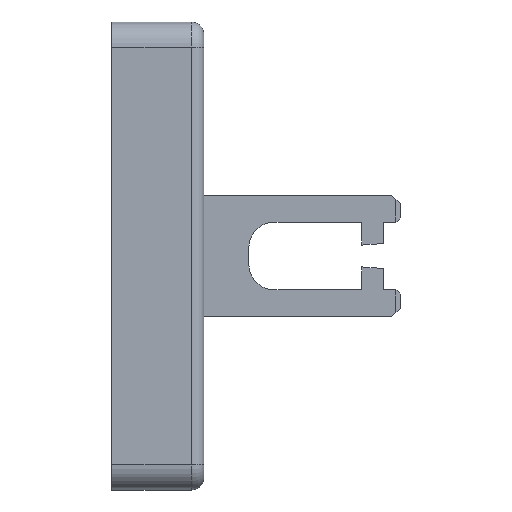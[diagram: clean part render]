
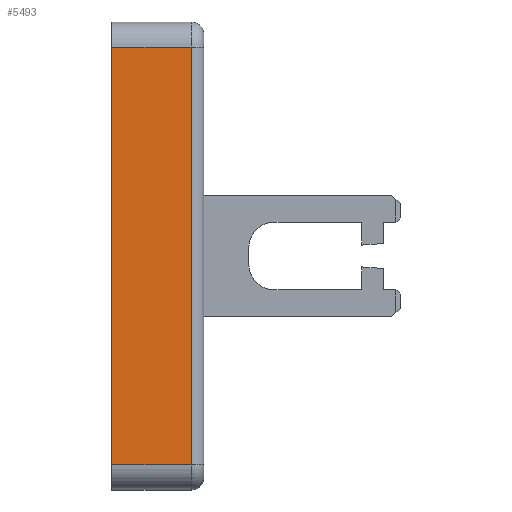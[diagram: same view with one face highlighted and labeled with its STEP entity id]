
A CAD part, front view. The second image highlights one B-rep face of the part: STEP entity #5493.
In plain terms, the highlighted planar face has unit normal (0, -1, 0) as drawn and (0, 0, -1) by its records, which use the part's own axes.
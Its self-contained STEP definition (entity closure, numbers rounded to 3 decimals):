
#29 = DIRECTION ( 'NONE',  ( 1., 0., 0. ) ) ;
#324 = VECTOR ( 'NONE', #2713, 1000. ) ;
#357 = EDGE_LOOP ( 'NONE', ( #1755, #2570, #1679, #4223 ) ) ;
#392 = CARTESIAN_POINT ( 'NONE',  ( -1.05, 19.4, -8. ) ) ;
#554 = VECTOR ( 'NONE', #7411, 1000. ) ;
#608 = VECTOR ( 'NONE', #2537, 1000. ) ;
#1027 = VECTOR ( 'NONE', #29, 1000. ) ;
#1433 = EDGE_CURVE ( 'NONE', #7303, #5709, #4023, .T. ) ;
#1679 = ORIENTED_EDGE ( 'NONE', *, *, #6092, .F. ) ;
#1755 = ORIENTED_EDGE ( 'NONE', *, *, #6368, .T. ) ;
#1783 = AXIS2_PLACEMENT_3D ( 'NONE', #392, #5485, #2384 ) ;
#2152 = LINE ( 'NONE', #7973, #324 ) ;
#2367 = EDGE_CURVE ( 'NONE', #3166, #6618, #3261, .T. ) ;
#2384 = DIRECTION ( 'NONE',  ( 1., 0., 0. ) ) ;
#2537 = DIRECTION ( 'NONE',  ( 0., 1., 0. ) ) ;
#2570 = ORIENTED_EDGE ( 'NONE', *, *, #1433, .T. ) ;
#2713 = DIRECTION ( 'NONE',  ( 0., 1., 0. ) ) ;
#3166 = VERTEX_POINT ( 'NONE', #6810 ) ;
#3261 = LINE ( 'NONE', #3980, #1027 ) ;
#3425 = CARTESIAN_POINT ( 'NONE',  ( -1.05, 9.5, -8. ) ) ;
#3580 = FACE_OUTER_BOUND ( 'NONE', #357, .T. ) ;
#3980 = CARTESIAN_POINT ( 'NONE',  ( -28., 0., -8. ) ) ;
#4023 = LINE ( 'NONE', #3425, #554 ) ;
#4082 = CARTESIAN_POINT ( 'NONE',  ( 25., 9.5, -8. ) ) ;
#4223 = ORIENTED_EDGE ( 'NONE', *, *, #2367, .F. ) ;
#5242 = CARTESIAN_POINT ( 'NONE',  ( 25., 0., -8. ) ) ;
#5485 = DIRECTION ( 'NONE',  ( 0., 0., 1. ) ) ;
#5493 = ADVANCED_FACE ( 'NONE', ( #3580 ), #6076, .F. ) ;
#5709 = VERTEX_POINT ( 'NONE', #4082 ) ;
#5765 = LINE ( 'NONE', #8355, #608 ) ;
#6076 = PLANE ( 'NONE',  #1783 ) ;
#6092 = EDGE_CURVE ( 'NONE', #6618, #5709, #2152, .T. ) ;
#6368 = EDGE_CURVE ( 'NONE', #3166, #7303, #5765, .T. ) ;
#6618 = VERTEX_POINT ( 'NONE', #5242 ) ;
#6810 = CARTESIAN_POINT ( 'NONE',  ( -25., 0., -8. ) ) ;
#6816 = CARTESIAN_POINT ( 'NONE',  ( -25., 9.5, -8. ) ) ;
#7303 = VERTEX_POINT ( 'NONE', #6816 ) ;
#7411 = DIRECTION ( 'NONE',  ( 1., 0., 0. ) ) ;
#7973 = CARTESIAN_POINT ( 'NONE',  ( 25., 19.4, -8. ) ) ;
#8355 = CARTESIAN_POINT ( 'NONE',  ( -25., 19.4, -8. ) ) ;
